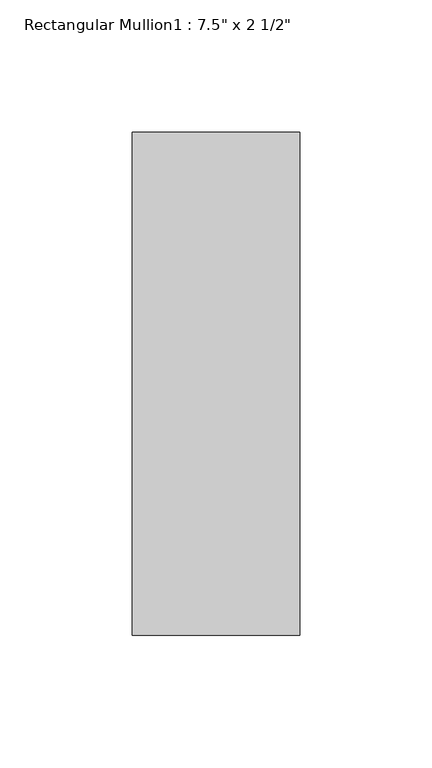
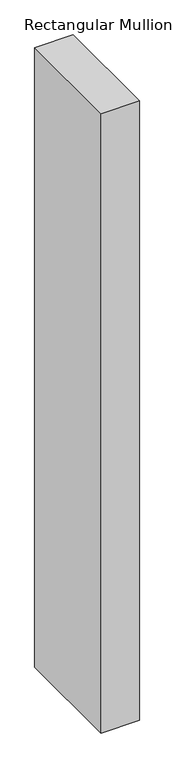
"""IFC4 building model written with IfcOpenShell, lengths in millimetres: member geometry."""

from ifc_helpers import new_model, si_unit, frame, origin, place, context, project, spatial, polyline, outline, extrude, source, transform, mapped, element, save


def member_fd838f36(model_context):
    return source(origin(), model_context, "Body", "SweptSolid", [
        extrude(outline(polyline([(-63.5, -165.1), (-63.5, 25.4), (0.0, 25.4), (0.0, -165.1), (-63.5, -165.1)])), frame((0.0, 0.0, -1085.85), z_axis=(0.0, 0.0, 1.0), x_axis=(1.0, 0.0, 0.0)), (0.0, 0.0, 1.0), 1085.85),
    ])


if __name__ == "__main__":
    model = new_model("IFC4")
    model_context = context("Model", 3, world=origin())
    ifc_project = project(units=[si_unit("LENGTHUNIT", "METRE", prefix="MILLI")], contexts=[model_context])
    site = spatial("IfcSite", under=ifc_project)
    building = spatial("IfcBuilding", under=site)
    placement = place(None, origin())
    member_shape = member_fd838f36(model_context)
    element("IfcMember", 1, ObjectType="Rectangular Mullion1 : 7.5\" x 2 1/2\"", at=placement, inside=building, context=model_context, shape_type="MappedRepresentation", body=[
        mapped(member_shape, transform((0.0, 0.0, 0.0), x_axis=(1.0, 0.0, 0.0), y_axis=(0.0, 1.0, 0.0), z_axis=(0.0, 0.0, 1.0))),
    ])
    save(model, "model.ifc")
